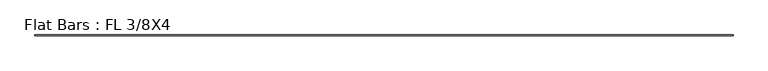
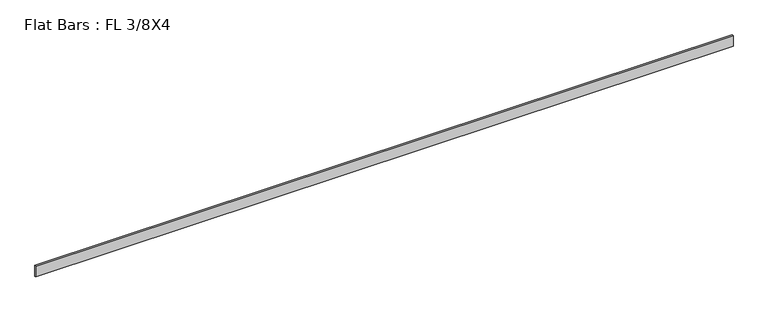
"""IFC4 building model written with IfcOpenShell, lengths in millimetres: member geometry, Flat Bars : FL 3/8X4."""

import ifcopenshell
import ifcopenshell.guid

model = None  # the IFC model being written
_history = None  # IfcOwnerHistory: only IFC2X3 demands one
_inside = {}  # id of a spatial element -> (the spatial element, [elements in it])
_under = {}  # id of a project, library or spatial element -> (it, [spatial elements below it])
_declared = {}  # id of a project -> (the project, [libraries it declares])
_typed = {}  # id of a type object -> (the type object, [elements of that type])
_made_of = {}  # id of a material, layer set ... -> (it, [elements and type objects made of it])


def new_model(schema):
    """Start an empty IFC model of exactly this schema.

    Asked for "IFC4X3", IfcOpenShell would pick the latest addendum, in which some entities
    have other attributes; the version numbers below select the first issue.
    IFC2X3 requires an IfcOwnerHistory on every rooted entity: one is made here for all.
    """
    global model, _history
    if schema == "IFC4X3":
        model = ifcopenshell.file(schema_version=(4, 3, 0, 0))
    else:
        model = ifcopenshell.file(schema=schema)
    _inside.clear()
    _under.clear()
    _declared.clear()
    _typed.clear()
    _made_of.clear()
    _history = None
    if model.schema == "IFC2X3":
        org = make("IfcOrganization", Name="unknown")
        user = make(
            "IfcPersonAndOrganization",
            ThePerson=make("IfcPerson", FamilyName="unknown"),
            TheOrganization=org,
        )
        app = make(
            "IfcApplication",
            ApplicationDeveloper=org,
            Version="unknown",
            ApplicationFullName="unknown",
            ApplicationIdentifier="unknown",
        )
        _history = make(
            "IfcOwnerHistory",
            OwningUser=user,
            OwningApplication=app,
            ChangeAction="ADDED",
            CreationDate=0,
        )
    return model


def make(cls, **values):
    """One entity of the class cls with the attributes given. An attribute that is None is left unset."""
    return model.create_entity(
        cls, **{name: value for name, value in values.items() if value is not None}
    )


def rooted(cls, **values):
    """An entity with a GlobalId (a new one), such as an element, a storey or a relation."""
    return make(cls, GlobalId=ifcopenshell.guid.new(), OwnerHistory=_history, **values)


def si_unit(unit_type, name, prefix=None):
    """IfcSIUnit, for example si_unit("LENGTHUNIT", "METRE", prefix="MILLI")."""
    return make("IfcSIUnit", UnitType=unit_type, Prefix=prefix, Name=name)


def assignment(units):
    """IfcUnitAssignment: the units of a project."""
    return None if units is None else make("IfcUnitAssignment", Units=units)


def point(xyz):
    """IfcCartesianPoint."""
    return None if xyz is None else make("IfcCartesianPoint", Coordinates=xyz)


def direction(xyz):
    """IfcDirection."""
    return None if xyz is None else make("IfcDirection", DirectionRatios=xyz)


def frame(location, z_axis=None, x_axis=None):
    """IfcAxis2Placement3D, a coordinate frame: its origin and axes. An axis left out is left unset."""
    return make(
        "IfcAxis2Placement3D",
        Location=point(location),
        Axis=direction(z_axis),
        RefDirection=direction(x_axis),
    )


def origin():
    """The frame at (0, 0, 0) with its axes left unset."""
    return frame((0.0, 0.0, 0.0))


def place(relative_to, where):
    """IfcLocalPlacement: puts the frame where relative to a parent placement (None: the world)."""
    return make(
        "IfcLocalPlacement", PlacementRelTo=relative_to, RelativePlacement=where
    )


def context(
    kind, dimensions, precision=None, world=None, true_north=None, identifier=None
):
    """IfcGeometricRepresentationContext, for example the 3D "Model" context."""
    return make(
        "IfcGeometricRepresentationContext",
        ContextIdentifier=identifier,
        ContextType=kind,
        CoordinateSpaceDimension=dimensions,
        Precision=precision,
        WorldCoordinateSystem=world,
        TrueNorth=true_north,
    )


def project(units=None, contexts=None):
    """IfcProject with its units and contexts."""
    return rooted(
        "IfcProject",
        Name="project",
        RepresentationContexts=contexts,
        UnitsInContext=assignment(units),
    )


def spatial(cls, under=None, at=None, **own):
    """A site, building, storey or space (cls), placed at a placement, below another one or the project."""
    s = rooted(cls, ObjectPlacement=at, **own)
    if under is not None:
        _under.setdefault(under.id(), (under, []))[1].append(s)
    return s


def polyline(points):
    """IfcPolyline through the points."""
    return make("IfcPolyline", Points=[point(p) for p in points])


def outline(outer, holes=None, kind="AREA"):
    """IfcArbitraryClosedProfileDef: a profile drawn as a closed curve; with holes, ...WithVoids."""
    if holes is None:
        return make("IfcArbitraryClosedProfileDef", ProfileType=kind, OuterCurve=outer)
    return make(
        "IfcArbitraryProfileDefWithVoids",
        ProfileType=kind,
        OuterCurve=outer,
        InnerCurves=holes,
    )


def extrude(swept, where, along, depth):
    """IfcExtrudedAreaSolid: the profile swept, set in the frame where, extruded along a direction by depth."""
    return make(
        "IfcExtrudedAreaSolid",
        SweptArea=swept,
        Position=where,
        ExtrudedDirection=direction(along),
        Depth=depth,
    )


def shape(context_of_items, identifier, shape_type, items):
    """IfcShapeRepresentation: the items that make up one representation, for example the "Body"."""
    return make(
        "IfcShapeRepresentation",
        ContextOfItems=context_of_items,
        RepresentationIdentifier=identifier,
        RepresentationType=shape_type,
        Items=items,
    )


def source(mapping_origin, context_of_items, identifier, shape_type, items):
    """IfcRepresentationMap: a shape defined once, which mapped items show again and again."""
    return make(
        "IfcRepresentationMap",
        MappingOrigin=mapping_origin,
        MappedRepresentation=shape(context_of_items, identifier, shape_type, items),
    )


def transform(
    local_origin,
    x_axis=None,
    y_axis=None,
    z_axis=None,
    scale=None,
    scale2=None,
    scale3=None,
    uniform=True,
):
    """IfcCartesianTransformationOperator3D, or its non-uniform kind. x_axis, y_axis, z_axis: its Axis1, 2, 3."""
    if uniform:
        return make(
            "IfcCartesianTransformationOperator3D",
            Axis1=direction(x_axis),
            Axis2=direction(y_axis),
            LocalOrigin=point(local_origin),
            Scale=scale,
            Axis3=direction(z_axis),
        )
    return make(
        "IfcCartesianTransformationOperator3DnonUniform",
        Axis1=direction(x_axis),
        Axis2=direction(y_axis),
        LocalOrigin=point(local_origin),
        Scale=scale,
        Axis3=direction(z_axis),
        Scale2=scale2,
        Scale3=scale3,
    )


def mapped(mapping_source, mapping_target):
    """IfcMappedItem: shows the shape of a source again, moved by a transform."""
    return make(
        "IfcMappedItem", MappingSource=mapping_source, MappingTarget=mapping_target
    )


def made_of(thing, what):
    """Note that an element or type object is made of a material, layer set ...; save() writes the relation."""
    if what is not None:
        _made_of.setdefault(what.id(), (what, []))[1].append(thing)
    return thing


def element(
    cls,
    number,
    at=None,
    inside=None,
    cuts=None,
    type_object=None,
    material=None,
    context=None,
    identifier="Body",
    shape_type=None,
    held_by="IfcProductDefinitionShape",
    body=None,
    shapes=None,
    **own,
):
    """One element of the class cls, such as IfcWall. Its Tag is "e" and its number.

    at: its placement. inside: the storey or other place that contains it. cuts: it is an
    opening in that element (IfcRelVoidsElement). A single representation is given by context,
    identifier, shape_type and body (its items); several are given by shapes. held_by: the class
    of the entity that holds the representations. save() writes the other relations.
    """
    e = rooted(cls, Tag="e%d" % number, ObjectPlacement=at, **own)
    if body is not None:
        shapes = [shape(context, identifier, shape_type, body)]
    if shapes is not None:
        e.Representation = make(held_by, Representations=shapes)
    if inside is not None:
        _inside.setdefault(inside.id(), (inside, []))[1].append(e)
    if cuts is not None:
        rooted(
            "IfcRelVoidsElement", RelatingBuildingElement=cuts, RelatedOpeningElement=e
        )
    if type_object is not None:
        _typed.setdefault(type_object.id(), (type_object, []))[1].append(e)
    return made_of(e, material)


def aggregate(whole, parts):
    """IfcRelAggregates: a whole, such as a stair, and the parts it consists of."""
    return rooted("IfcRelAggregates", RelatingObject=whole, RelatedObjects=parts)


def save(model, path):
    """Write the relations noted so far, then the file.

    IfcRelAggregates (storeys below a building ...), IfcRelContainedInSpatialStructure (elements
    in a storey), IfcRelDefinesByType, IfcRelAssociatesMaterial and IfcRelDeclares: one each for
    every whole, place, type object, material and project.
    """
    for whole, parts in _under.values():
        aggregate(whole, parts)
    for where, things in _inside.values():
        rooted(
            "IfcRelContainedInSpatialStructure",
            RelatedElements=things,
            RelatingStructure=where,
        )
    for kind, things in _typed.values():
        rooted("IfcRelDefinesByType", RelatedObjects=things, RelatingType=kind)
    for what, things in _made_of.values():
        rooted("IfcRelAssociatesMaterial", RelatedObjects=things, RelatingMaterial=what)
    for by, libraries in _declared.values():
        rooted("IfcRelDeclares", RelatingContext=by, RelatedDefinitions=libraries)
    model.write(path)


def flat_bars_fl_3_8x4_35c656aa(model_context):
    return source(origin(), model_context, "Body", "SweptSolid", [
        extrude(outline(polyline([(-3245.2082713, -4.7625), (-3245.2082713, 4.7625), (2999.7675293, 4.7625), (2999.7675293, -4.7625), (-3245.2082713, -4.7625)])), frame((0.0, 0.0, -50.8), z_axis=(0.0, 0.0, 1.0), x_axis=(1.0, 0.0, 0.0)), (0.0, 0.0, 1.0), 101.6),
    ])


if __name__ == "__main__":
    model = new_model("IFC4")
    model_context = context("Model", 3, world=origin())
    ifc_project = project(units=[si_unit("LENGTHUNIT", "METRE", prefix="MILLI")], contexts=[model_context])
    site = spatial("IfcSite", under=ifc_project)
    building = spatial("IfcBuilding", under=site)
    placement = place(None, origin())
    flat_bars_fl_3_8x4_shape = flat_bars_fl_3_8x4_35c656aa(model_context)
    element("IfcMember", 1, ObjectType="Flat Bars : FL 3/8X4", at=placement, inside=building, context=model_context, shape_type="MappedRepresentation", body=[
        mapped(flat_bars_fl_3_8x4_shape, transform((0.0, 0.0, 0.0), x_axis=(1.0, 0.0, 0.0), y_axis=(0.0, 1.0, 0.0), z_axis=(0.0, 0.0, 1.0))),
    ])
    save(model, "model.ifc")
